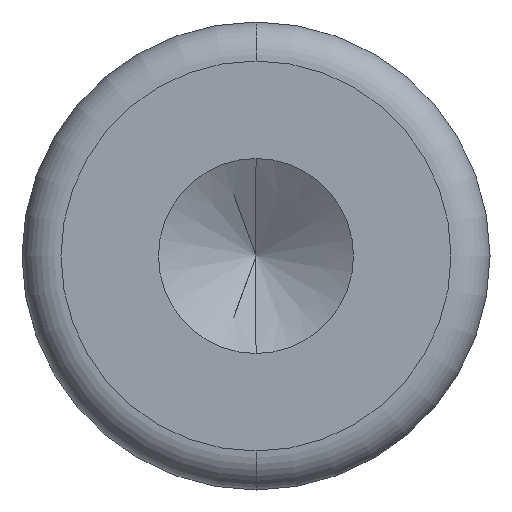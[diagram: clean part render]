
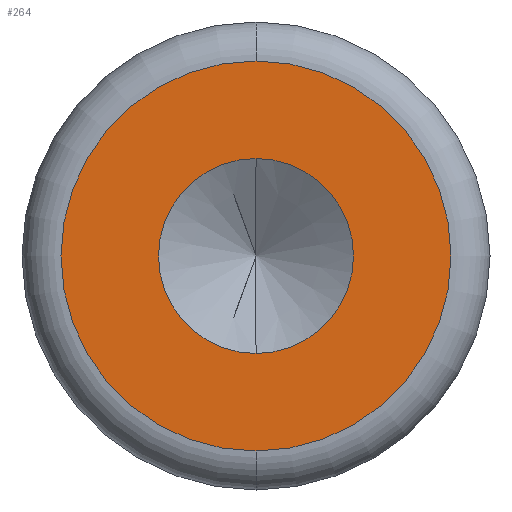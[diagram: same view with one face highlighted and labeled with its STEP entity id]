
A CAD part, front view. The second image highlights one B-rep face of the part: STEP entity #264.
In plain terms, the highlighted planar face has unit normal (0, -1, 0).
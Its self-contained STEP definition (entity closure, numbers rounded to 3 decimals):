
#19 = PLANE ( 'NONE',  #214 ) ;
#65 = CARTESIAN_POINT ( 'NONE',  ( 6., 0., 0. ) ) ;
#71 = VERTEX_POINT ( 'NONE', #153 ) ;
#81 = EDGE_LOOP ( 'NONE', ( #330, #640 ) ) ;
#93 = DIRECTION ( 'NONE',  ( 0., -1., 0. ) ) ;
#112 = CARTESIAN_POINT ( 'NONE',  ( 0., 0., 0. ) ) ;
#118 = CARTESIAN_POINT ( 'NONE',  ( 0., 0., 0. ) ) ;
#123 = EDGE_CURVE ( 'NONE', #215, #365, #294, .T. ) ;
#153 = CARTESIAN_POINT ( 'NONE',  ( 0., 0., -5. ) ) ;
#160 = EDGE_CURVE ( 'NONE', #365, #215, #262, .T. ) ;
#191 = EDGE_CURVE ( 'NONE', #71, #658, #454, .T. ) ;
#193 = DIRECTION ( 'NONE',  ( 0., -1., 0. ) ) ;
#200 = CIRCLE ( 'NONE', #624, 5. ) ;
#214 = AXIS2_PLACEMENT_3D ( 'NONE', #65, #193, #592 ) ;
#215 = VERTEX_POINT ( 'NONE', #649 ) ;
#231 = DIRECTION ( 'NONE',  ( 0., -1., 0. ) ) ;
#262 = CIRCLE ( 'NONE', #476, 2.5 ) ;
#263 = ORIENTED_EDGE ( 'NONE', *, *, #467, .T. ) ;
#264 = ADVANCED_FACE ( 'NONE', ( #584, #314 ), #19, .T. ) ;
#275 = DIRECTION ( 'NONE',  ( 0., 0., -1. ) ) ;
#294 = CIRCLE ( 'NONE', #652, 2.5 ) ;
#314 = FACE_BOUND ( 'NONE', #81, .T. ) ;
#318 = CARTESIAN_POINT ( 'NONE',  ( 0., 0., 0. ) ) ;
#330 = ORIENTED_EDGE ( 'NONE', *, *, #123, .F. ) ;
#353 = DIRECTION ( 'NONE',  ( 0., 0., -1. ) ) ;
#362 = CARTESIAN_POINT ( 'NONE',  ( 0., 0., 2.5 ) ) ;
#365 = VERTEX_POINT ( 'NONE', #362 ) ;
#413 = DIRECTION ( 'NONE',  ( 0., -1., 0. ) ) ;
#449 = CARTESIAN_POINT ( 'NONE',  ( 0., 0., 0. ) ) ;
#454 = CIRCLE ( 'NONE', #589, 5. ) ;
#461 = DIRECTION ( 'NONE',  ( 0., 0., -1. ) ) ;
#467 = EDGE_CURVE ( 'NONE', #658, #71, #200, .T. ) ;
#476 = AXIS2_PLACEMENT_3D ( 'NONE', #449, #231, #688 ) ;
#514 = DIRECTION ( 'NONE',  ( 0., -1., 0. ) ) ;
#584 = FACE_OUTER_BOUND ( 'NONE', #748, .T. ) ;
#589 = AXIS2_PLACEMENT_3D ( 'NONE', #112, #413, #353 ) ;
#592 = DIRECTION ( 'NONE',  ( 0., 0., -1. ) ) ;
#624 = AXIS2_PLACEMENT_3D ( 'NONE', #318, #93, #275 ) ;
#640 = ORIENTED_EDGE ( 'NONE', *, *, #160, .F. ) ;
#649 = CARTESIAN_POINT ( 'NONE',  ( 0., 0., -2.5 ) ) ;
#652 = AXIS2_PLACEMENT_3D ( 'NONE', #118, #514, #461 ) ;
#658 = VERTEX_POINT ( 'NONE', #671 ) ;
#671 = CARTESIAN_POINT ( 'NONE',  ( 0., 0., 5. ) ) ;
#688 = DIRECTION ( 'NONE',  ( 0., 0., -1. ) ) ;
#702 = ORIENTED_EDGE ( 'NONE', *, *, #191, .T. ) ;
#748 = EDGE_LOOP ( 'NONE', ( #702, #263 ) ) ;
